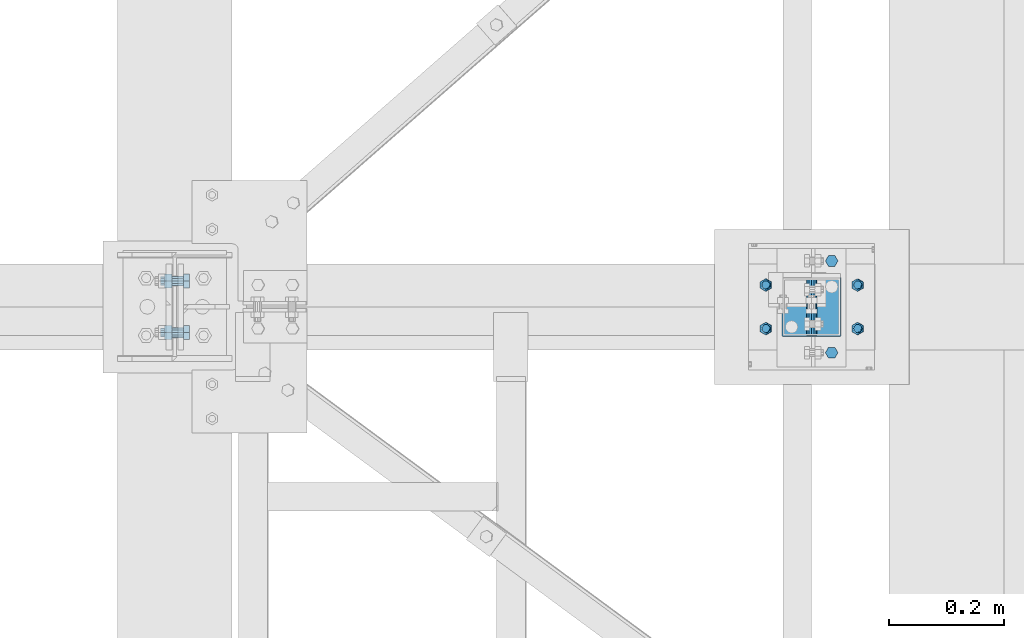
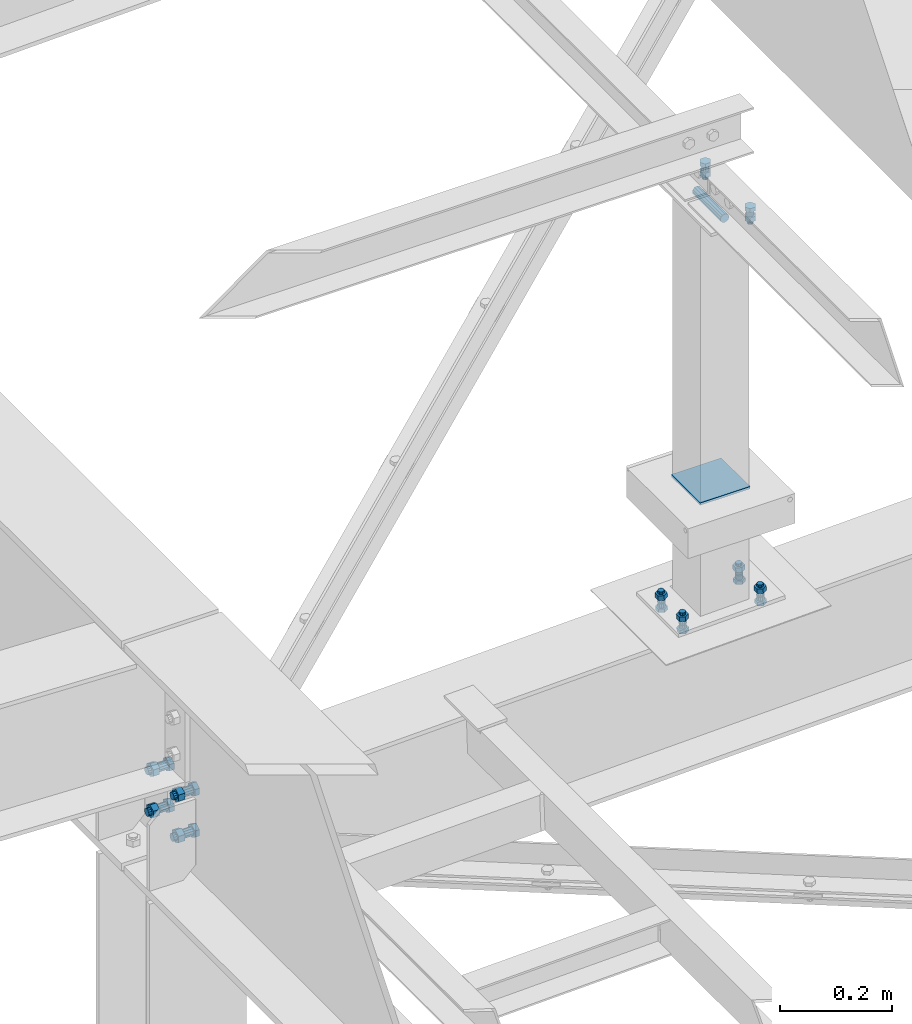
# One storey, part 58 of 3134: 7 mechanical fasteners, 6 elements without a shape of their own.
"""IFC2X3 building model written with IfcOpenShell, lengths in millimetres."""

from ifc_helpers import new_model, si_unit, frame, origin_with_axes, place, context, subcontext, project, spatial, faceted_brep, source, transform, mapped, material, type_object, element, aggregate, save


model = new_model("IFC2X3")

# Units and contexts
model_context = context("Model", 3, precision=1e-05, world=origin_with_axes())
body_context = subcontext(model_context, "Body", "Model", "MODEL_VIEW")
ifc_project = project(units=[si_unit("LENGTHUNIT", "METRE", prefix="MILLI"), si_unit("AREAUNIT", "SQUARE_METRE"), si_unit("VOLUMEUNIT", "CUBIC_METRE"), si_unit("MASSUNIT", "GRAM", prefix="KILO"), si_unit("TIMEUNIT", "SECOND"), si_unit("PLANEANGLEUNIT", "RADIAN"), si_unit("SOLIDANGLEUNIT", "STERADIAN"), si_unit("THERMODYNAMICTEMPERATUREUNIT", "DEGREE_CELSIUS"), si_unit("LUMINOUSINTENSITYUNIT", "LUMEN")], contexts=[model_context])

# Site, building, storey
site_placement = place(None, origin_with_axes())
site = spatial("IfcSite", under=ifc_project, at=site_placement, CompositionType="ELEMENT")
building_placement = place(site_placement, origin_with_axes())
building = spatial("IfcBuilding", under=site, at=building_placement, Name="Undefined", CompositionType="ELEMENT")
storey_placement = place(building_placement, origin_with_axes())
storey = spatial("IfcBuildingStorey", under=building, at=storey_placement, Name="Undefined", CompositionType="ELEMENT", Elevation=0.0)

# Assembly, mechanical fastener
assembly_1_placement = place(storey_placement, origin_with_axes())
assembly_1 = element("IfcElementAssembly", 1, at=assembly_1_placement, inside=storey, AssemblyPlace="NOTDEFINED", PredefinedType="RIGID_FRAME")
ifc_material_1 = material(Name="8.8")
mechanical_fastener_type = type_object("IfcMechanicalFastenerType", Name="Bolt assembly")
shared_shape_1 = source(origin_with_axes(), body_context, "Body", "Brep", [
    faceted_brep([(10.9696551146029, -14.0, 0.0), (5.48482755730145, -14.0, 9.5), (-5.48482755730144, -14.0, 9.5), (-10.9696551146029, -14.0, 1.34339530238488e-15), (-5.48482755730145, -14.0, -9.5), (5.48482755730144, -14.0, -9.50000000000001), (5.48482755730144, -6.0, -9.50000000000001), (-5.48482755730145, -6.0, -9.5), (-10.9696551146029, -6.0, 1.34339530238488e-15), (-5.48482755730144, -6.0, 9.5), (5.48482755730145, -6.0, 9.5), (10.9696551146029, -6.0, 0.0), (6.0, -6.0, 0.0), (5.19615242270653, -6.0, 3.00000000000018), (2.99999999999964, -6.0, 5.19615242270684), (-6.21801588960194e-13, -6.0, 6.0), (-3.00000000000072, -6.0, 5.19615242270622), (-5.19615242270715, -6.0, 2.9999999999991), (-6.0, -6.0, -1.24360317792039e-12), (-5.19615242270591, -6.0, -3.00000000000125), (-2.99999999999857, -6.0, -5.19615242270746), (1.85874342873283e-12, -6.0, -6.0), (3.00000000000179, -6.0, -5.1961524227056), (5.19615242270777, -6.0, -2.99999999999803), (5.19615242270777, 24.0, -2.99999999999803), (3.00000000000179, 24.0, -5.1961524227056), (1.85874342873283e-12, 24.0, -6.0), (-2.99999999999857, 24.0, -5.19615242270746), (-5.19615242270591, 24.0, -3.00000000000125), (-6.0, 24.0, -1.24360317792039e-12), (-5.19615242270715, 24.0, 2.9999999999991), (-3.00000000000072, 24.0, 5.19615242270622), (-6.21801588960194e-13, 24.0, 6.0), (2.99999999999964, 24.0, 5.19615242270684), (5.19615242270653, 24.0, 3.00000000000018), (6.0, 24.0, 0.0), (10.9696551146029, 6.00000000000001, 0.0), (5.48482755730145, 6.00000000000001, 9.5), (-5.48482755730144, 6.00000000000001, 9.5), (-10.9696551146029, 6.00000000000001, 1.34339530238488e-15), (-5.48482755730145, 6.00000000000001, -9.5), (5.48482755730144, 6.00000000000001, -9.50000000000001), (5.48482755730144, 16.0, -9.50000000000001), (-5.48482755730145, 16.0, -9.5), (-10.9696551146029, 16.0, 1.34339530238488e-15), (-5.48482755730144, 16.0, 9.5), (5.48482755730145, 16.0, 9.5), (10.9696551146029, 16.0, 0.0)], [[[0, 1, 2, 3, 4, 5]], [[6, 7, 8, 9, 10, 11]], [[0, 11, 10, 1]], [[1, 10, 9, 2]], [[2, 9, 8, 3]], [[3, 8, 7, 4]], [[4, 7, 6, 5]], [[5, 6, 11, 0]], [[12, 13, 14, 15, 16, 17, 18, 19, 20, 21, 22, 23]], [[24, 25, 26, 27, 28, 29, 30, 31, 32, 33, 34, 35]], [[12, 35, 34, 13]], [[13, 34, 33, 14]], [[14, 33, 32, 15]], [[15, 32, 31, 16]], [[16, 31, 30, 17]], [[17, 30, 29, 18]], [[18, 29, 28, 19]], [[19, 28, 27, 20]], [[20, 27, 26, 21]], [[21, 26, 25, 22]], [[22, 25, 24, 23]], [[23, 24, 35, 12]], [[36, 37, 38, 39, 40, 41]], [[42, 43, 44, 45, 46, 47]], [[36, 47, 46, 37]], [[37, 46, 45, 38]], [[38, 45, 44, 39]], [[39, 44, 43, 40]], [[40, 43, 42, 41]], [[41, 42, 47, 36]]]),
    faceted_brep([(7.0, -0.1, 0.0), (6.06217782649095, -0.1, 3.50000000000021), (3.49999999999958, -0.1, 6.06217782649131), (-7.25435187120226e-13, -0.1, 7.0), (-3.50000000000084, -0.1, 6.06217782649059), (-6.06217782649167, -0.1, 3.49999999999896), (-7.0, -0.1, -1.45087037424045e-12), (-6.06217782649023, -0.1, -3.50000000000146), (-3.49999999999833, -0.1, -6.06217782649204), (2.1685340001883e-12, -0.1, -7.0), (3.50000000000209, -0.1, -6.06217782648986), (6.0621778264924, -0.1, -3.4999999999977), (6.0621778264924, 6.00000000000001, -3.4999999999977), (3.50000000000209, 6.00000000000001, -6.06217782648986), (2.1685340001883e-12, 6.00000000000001, -7.0), (-3.49999999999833, 6.00000000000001, -6.06217782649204), (-6.06217782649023, 6.00000000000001, -3.50000000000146), (-7.0, 6.00000000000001, -1.45087037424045e-12), (-6.06217782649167, 6.00000000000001, 3.49999999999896), (-3.50000000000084, 6.00000000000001, 6.06217782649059), (-7.25435187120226e-13, 6.00000000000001, 7.0), (3.49999999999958, 6.00000000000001, 6.06217782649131), (6.06217782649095, 6.00000000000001, 3.50000000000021), (7.0, 6.00000000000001, 0.0), (7.0, -5.9, 0.0), (6.06217782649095, -5.9, 3.50000000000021), (3.49999999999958, -5.9, 6.06217782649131), (-7.25435187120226e-13, -5.9, 7.0), (-3.50000000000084, -5.9, 6.06217782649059), (-6.06217782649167, -5.9, 3.49999999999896), (-7.0, -5.9, -1.45087037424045e-12), (-6.06217782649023, -5.9, -3.50000000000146), (-3.49999999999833, -5.9, -6.06217782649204), (2.1685340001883e-12, -5.9, -7.0), (3.50000000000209, -5.9, -6.06217782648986), (6.0621778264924, -5.9, -3.4999999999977), (6.0621778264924, 0.0999999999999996, -3.4999999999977), (3.50000000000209, 0.0999999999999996, -6.06217782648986), (2.1685340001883e-12, 0.0999999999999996, -7.0), (-3.49999999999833, 0.0999999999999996, -6.06217782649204), (-6.06217782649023, 0.0999999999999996, -3.50000000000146), (-7.0, 0.0999999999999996, -1.45087037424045e-12), (-6.06217782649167, 0.0999999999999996, 3.49999999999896), (-3.50000000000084, 0.0999999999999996, 6.06217782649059), (-7.25435187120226e-13, 0.0999999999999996, 7.0), (3.49999999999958, 0.0999999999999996, 6.06217782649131), (6.06217782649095, 0.0999999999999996, 3.50000000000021), (7.0, 0.0999999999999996, 0.0)], [[[0, 1, 2, 3, 4, 5, 6, 7, 8, 9, 10, 11]], [[12, 13, 14, 15, 16, 17, 18, 19, 20, 21, 22, 23]], [[0, 23, 22, 1]], [[1, 22, 21, 2]], [[2, 21, 20, 3]], [[3, 20, 19, 4]], [[4, 19, 18, 5]], [[5, 18, 17, 6]], [[6, 17, 16, 7]], [[7, 16, 15, 8]], [[8, 15, 14, 9]], [[9, 14, 13, 10]], [[10, 13, 12, 11]], [[11, 12, 23, 0]], [[24, 25, 26, 27, 28, 29, 30, 31, 32, 33, 34, 35]], [[36, 37, 38, 39, 40, 41, 42, 43, 44, 45, 46, 47]], [[24, 47, 46, 25]], [[25, 46, 45, 26]], [[26, 45, 44, 27]], [[27, 44, 43, 28]], [[28, 43, 42, 29]], [[29, 42, 41, 30]], [[30, 41, 40, 31]], [[31, 40, 39, 32]], [[32, 39, 38, 33]], [[33, 38, 37, 34]], [[34, 37, 36, 35]], [[35, 36, 47, 24]]]),
])
mechanical_fastener_1_placement = place(assembly_1_placement, frame((10440.0, 19450.0, 4265.0), z_axis=(0.0, -1.0, 0.0), x_axis=(-1.0, 0.0, 0.0)))
mechanical_fastener_1 = element("IfcMechanicalFastener", 2, at=mechanical_fastener_1_placement, type_object=mechanical_fastener_type, material=ifc_material_1, Name="Bolt assembly", NominalDiameter=12.0, NominalLength=30.0, context=body_context, shape_type="MappedRepresentation", body=[
    mapped(shared_shape_1, transform((0.0, -5.32963895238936e-10, -79.9999999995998))),
    mapped(shared_shape_1, transform((0.0, 5.3114490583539e-10, 79.9999999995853))),
])
aggregate(assembly_1, [mechanical_fastener_1])

assembly_2_placement = place(storey_placement, origin_with_axes())
assembly_2 = element("IfcElementAssembly", 3, at=assembly_2_placement, inside=storey, Name="IPE500", AssemblyPlace="NOTDEFINED", PredefinedType="RIGID_FRAME")
shared_shape_2 = source(origin_with_axes(), body_context, "Body", "Brep", [
    faceted_brep([(13.856406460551, -10.0, 0.0), (6.92820323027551, -10.0, 12.0), (-6.92820323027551, -10.0, 12.0), (-13.856406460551, -10.0, 1.69692038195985e-15), (-6.92820323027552, -10.0, -12.0), (6.9282032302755, -10.0, -12.0), (6.9282032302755, 0.0, -12.0), (-6.92820323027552, 0.0, -12.0), (-13.856406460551, 0.0, 1.69692038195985e-15), (-6.92820323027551, 0.0, 12.0), (6.92820323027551, 0.0, 12.0), (13.856406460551, 0.0, 0.0), (8.0, 0.0, 0.0), (6.92820323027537, 0.0, 4.00000000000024), (3.99999999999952, 0.0, 6.92820323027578), (-8.29068785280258e-13, 0.0, 8.0), (-4.00000000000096, 0.0, 6.92820323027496), (-6.9282032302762, 0.0, 3.99999999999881), (-8.0, 0.0, -1.65813757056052e-12), (-6.92820323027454, 0.0, -4.00000000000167), (-3.99999999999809, 0.0, -6.92820323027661), (2.47832457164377e-12, 0.0, -8.0), (4.00000000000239, 0.0, -6.92820323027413), (6.92820323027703, 0.0, -3.99999999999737), (6.92820323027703, 40.0, -3.99999999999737), (4.00000000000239, 40.0, -6.92820323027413), (2.47832457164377e-12, 40.0, -8.0), (-3.99999999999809, 40.0, -6.92820323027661), (-6.92820323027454, 40.0, -4.00000000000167), (-8.0, 40.0, -1.65813757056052e-12), (-6.9282032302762, 40.0, 3.99999999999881), (-4.00000000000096, 40.0, 6.92820323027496), (-8.29068785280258e-13, 40.0, 8.0), (3.99999999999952, 40.0, 6.92820323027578), (6.92820323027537, 40.0, 4.00000000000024), (8.0, 40.0, 0.0), (13.856406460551, 20.1999997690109, 0.0), (6.92820323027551, 20.1999997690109, 12.0), (-6.92820323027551, 20.1999997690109, 12.0), (-13.856406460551, 20.1999997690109, 1.69692038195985e-15), (-6.92820323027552, 20.1999997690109, -12.0), (6.9282032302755, 20.1999997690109, -12.0), (6.9282032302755, 33.1999997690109, -12.0), (-6.92820323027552, 33.1999997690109, -12.0), (-13.856406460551, 33.1999997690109, 1.69692038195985e-15), (-6.92820323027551, 33.1999997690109, 12.0), (6.92820323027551, 33.1999997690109, 12.0), (13.856406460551, 33.1999997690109, 0.0)], [[[0, 1, 2, 3, 4, 5]], [[6, 7, 8, 9, 10, 11]], [[0, 11, 10, 1]], [[1, 10, 9, 2]], [[2, 9, 8, 3]], [[3, 8, 7, 4]], [[4, 7, 6, 5]], [[5, 6, 11, 0]], [[12, 13, 14, 15, 16, 17, 18, 19, 20, 21, 22, 23]], [[24, 25, 26, 27, 28, 29, 30, 31, 32, 33, 34, 35]], [[12, 35, 34, 13]], [[13, 34, 33, 14]], [[14, 33, 32, 15]], [[15, 32, 31, 16]], [[16, 31, 30, 17]], [[17, 30, 29, 18]], [[18, 29, 28, 19]], [[19, 28, 27, 20]], [[20, 27, 26, 21]], [[21, 26, 25, 22]], [[22, 25, 24, 23]], [[23, 24, 35, 12]], [[36, 37, 38, 39, 40, 41]], [[42, 43, 44, 45, 46, 47]], [[36, 47, 46, 37]], [[37, 46, 45, 38]], [[38, 45, 44, 39]], [[39, 44, 43, 40]], [[40, 43, 42, 41]], [[41, 42, 47, 36]]]),
    faceted_brep([(9.0, 0.100000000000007, 0.0), (7.79422863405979, 0.100000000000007, 4.50000000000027), (4.49999999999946, 0.100000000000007, 7.79422863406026), (-9.3270238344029e-13, 0.100000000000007, 9.0), (-4.50000000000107, 0.100000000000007, 7.79422863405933), (-7.79422863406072, 0.100000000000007, 4.49999999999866), (-9.0, 0.100000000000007, -1.86540476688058e-12), (-7.79422863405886, 0.100000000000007, -4.50000000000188), (-4.49999999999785, 0.100000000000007, -7.79422863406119), (2.78811514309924e-12, 0.100000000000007, -9.0), (4.50000000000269, 0.100000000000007, -7.7942286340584), (7.79422863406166, 0.100000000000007, -4.49999999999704), (7.79422863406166, 10.1000023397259, -4.49999999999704), (4.50000000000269, 10.1000023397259, -7.7942286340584), (2.78811514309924e-12, 10.1000023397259, -9.0), (-4.49999999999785, 10.1000023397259, -7.79422863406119), (-7.79422863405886, 10.1000023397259, -4.50000000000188), (-9.0, 10.1000023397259, -1.86540476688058e-12), (-7.79422863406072, 10.1000023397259, 4.49999999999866), (-4.50000000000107, 10.1000023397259, 7.79422863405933), (-9.3270238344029e-13, 10.1000023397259, 9.0), (4.49999999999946, 10.1000023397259, 7.79422863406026), (7.79422863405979, 10.1000023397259, 4.50000000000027), (9.0, 10.1000023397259, 0.0), (9.0, 9.89999999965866, 0.0), (7.79422863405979, 9.89999999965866, 4.50000000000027), (4.49999999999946, 9.89999999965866, 7.79422863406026), (-9.3270238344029e-13, 9.89999999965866, 9.0), (-4.50000000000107, 9.89999999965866, 7.79422863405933), (-7.79422863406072, 9.89999999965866, 4.49999999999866), (-9.0, 9.89999999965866, -1.86540476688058e-12), (-7.79422863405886, 9.89999999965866, -4.50000000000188), (-4.49999999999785, 9.89999999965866, -7.79422863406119), (2.78811514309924e-12, 9.89999999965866, -9.0), (4.50000000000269, 9.89999999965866, -7.7942286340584), (7.79422863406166, 9.89999999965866, -4.49999999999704), (7.79422863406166, 20.1999997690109, -4.49999999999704), (4.50000000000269, 20.1999997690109, -7.7942286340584), (2.78811514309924e-12, 20.1999997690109, -9.0), (-4.49999999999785, 20.1999997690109, -7.79422863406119), (-7.79422863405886, 20.1999997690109, -4.50000000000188), (-9.0, 20.1999997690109, -1.86540476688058e-12), (-7.79422863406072, 20.1999997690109, 4.49999999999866), (-4.50000000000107, 20.1999997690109, 7.79422863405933), (-9.3270238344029e-13, 20.1999997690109, 9.0), (4.49999999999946, 20.1999997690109, 7.79422863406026), (7.79422863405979, 20.1999997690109, 4.50000000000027), (9.0, 20.1999997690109, 0.0)], [[[0, 1, 2, 3, 4, 5, 6, 7, 8, 9, 10, 11]], [[12, 13, 14, 15, 16, 17, 18, 19, 20, 21, 22, 23]], [[0, 23, 22, 1]], [[1, 22, 21, 2]], [[2, 21, 20, 3]], [[3, 20, 19, 4]], [[4, 19, 18, 5]], [[5, 18, 17, 6]], [[6, 17, 16, 7]], [[7, 16, 15, 8]], [[8, 15, 14, 9]], [[9, 14, 13, 10]], [[10, 13, 12, 11]], [[11, 12, 23, 0]], [[24, 25, 26, 27, 28, 29, 30, 31, 32, 33, 34, 35]], [[36, 37, 38, 39, 40, 41, 42, 43, 44, 45, 46, 47]], [[24, 47, 46, 25]], [[25, 46, 45, 26]], [[26, 45, 44, 27]], [[27, 44, 43, 28]], [[28, 43, 42, 29]], [[29, 42, 41, 30]], [[30, 41, 40, 31]], [[31, 40, 39, 32]], [[32, 39, 38, 33]], [[33, 38, 37, 34]], [[34, 37, 36, 35]], [[35, 36, 47, 24]]]),
])
mechanical_fastener_2_placement = place(assembly_2_placement, frame((9310.09999986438, 19405.0, 3381.67000001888), z_axis=(0.0, 1.0, 0.0), x_axis=(0.0, 0.0, -1.0)))
mechanical_fastener_2 = element("IfcMechanicalFastener", 4, at=mechanical_fastener_2_placement, type_object=mechanical_fastener_type, material=ifc_material_1, Name="Bolt assembly", NominalDiameter=16.0, NominalLength=40.0, context=body_context, shape_type="MappedRepresentation", body=[
    mapped(shared_shape_2, transform((0.0, 0.0, 0.0))),
    mapped(shared_shape_2, transform((90.0, 0.0, 0.0))),
])
aggregate(assembly_2, [mechanical_fastener_2])

assembly_3_placement = place(storey_placement, origin_with_axes())
assembly_3 = element("IfcElementAssembly", 5, at=assembly_3_placement, inside=storey, Name="IPE500", AssemblyPlace="NOTDEFINED", PredefinedType="RIGID_FRAME")
mechanical_fastener_3_placement = place(assembly_3_placement, frame((9310.09999986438, 19495.0, 3381.67000001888), z_axis=(0.0, 1.0, 0.0), x_axis=(0.0, 0.0, -1.0)))
mechanical_fastener_3 = element("IfcMechanicalFastener", 6, at=mechanical_fastener_3_placement, type_object=mechanical_fastener_type, material=ifc_material_1, Name="Bolt assembly", NominalDiameter=16.0, NominalLength=40.0, context=body_context, shape_type="MappedRepresentation", body=[
    mapped(shared_shape_2, transform((0.0, 0.0, 0.0))),
    mapped(shared_shape_2, transform((90.0, 0.0, 0.0))),
])
aggregate(assembly_3, [mechanical_fastener_3])

assembly_4_placement = place(storey_placement, origin_with_axes())
assembly_4 = element("IfcElementAssembly", 7, at=assembly_4_placement, inside=storey, Name="300", AssemblyPlace="NOTDEFINED", PredefinedType="RIGID_FRAME")
shared_shape_3 = source(origin_with_axes(), body_context, "Body", "Brep", [
    faceted_brep([(10.9696551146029, -4.1984682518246, 0.0), (5.48482755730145, -4.1984682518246, 9.5), (-5.48482755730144, -4.1984682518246, 9.5), (-10.9696551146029, -4.1984682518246, 1.34339530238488e-15), (-5.48482755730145, -4.1984682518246, -9.5), (5.48482755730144, -4.1984682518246, -9.50000000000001), (5.48482755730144, 3.8015317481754, -9.50000000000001), (-5.48482755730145, 3.8015317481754, -9.5), (-10.9696551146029, 3.8015317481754, 1.34339530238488e-15), (-5.48482755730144, 3.8015317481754, 9.5), (5.48482755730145, 3.8015317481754, 9.5), (10.9696551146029, 3.8015317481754, 0.0), (6.0, 3.8015317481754, 0.0), (5.19615242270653, 3.8015317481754, 3.00000000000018), (2.99999999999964, 3.8015317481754, 5.19615242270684), (-6.21801588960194e-13, 3.8015317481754, 6.0), (-3.00000000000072, 3.8015317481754, 5.19615242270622), (-5.19615242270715, 3.8015317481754, 2.9999999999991), (-6.0, 3.8015317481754, -1.24360317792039e-12), (-5.19615242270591, 3.8015317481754, -3.00000000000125), (-2.99999999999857, 3.8015317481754, -5.19615242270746), (1.85874342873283e-12, 3.8015317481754, -6.0), (3.00000000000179, 3.8015317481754, -5.1961524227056), (5.19615242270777, 3.8015317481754, -2.99999999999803), (5.19615242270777, 38.8015317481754, -2.99999999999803), (3.00000000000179, 38.8015317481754, -5.1961524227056), (1.85874342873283e-12, 38.8015317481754, -6.0), (-2.99999999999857, 38.8015317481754, -5.19615242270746), (-5.19615242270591, 38.8015317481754, -3.00000000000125), (-6.0, 38.8015317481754, -1.24360317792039e-12), (-5.19615242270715, 38.8015317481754, 2.9999999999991), (-3.00000000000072, 38.8015317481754, 5.19615242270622), (-6.21801588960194e-13, 38.8015317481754, 6.0), (2.99999999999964, 38.8015317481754, 5.19615242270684), (5.19615242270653, 38.8015317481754, 3.00000000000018), (6.0, 38.8015317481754, 0.0), (10.9696551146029, 23.0039050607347, 0.0), (5.48482755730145, 23.0039050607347, 9.5), (-5.48482755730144, 23.0039050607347, 9.5), (-10.9696551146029, 23.0039050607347, 1.34339530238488e-15), (-5.48482755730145, 23.0039050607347, -9.5), (5.48482755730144, 23.0039050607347, -9.50000000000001), (5.48482755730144, 33.0039050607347, -9.50000000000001), (-5.48482755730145, 33.0039050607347, -9.5), (-10.9696551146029, 33.0039050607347, 1.34339530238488e-15), (-5.48482755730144, 33.0039050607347, 9.5), (5.48482755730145, 33.0039050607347, 9.5), (10.9696551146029, 33.0039050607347, 0.0)], [[[0, 1, 2, 3, 4, 5]], [[6, 7, 8, 9, 10, 11]], [[0, 11, 10, 1]], [[1, 10, 9, 2]], [[2, 9, 8, 3]], [[3, 8, 7, 4]], [[4, 7, 6, 5]], [[5, 6, 11, 0]], [[12, 13, 14, 15, 16, 17, 18, 19, 20, 21, 22, 23]], [[24, 25, 26, 27, 28, 29, 30, 31, 32, 33, 34, 35]], [[12, 35, 34, 13]], [[13, 34, 33, 14]], [[14, 33, 32, 15]], [[15, 32, 31, 16]], [[16, 31, 30, 17]], [[17, 30, 29, 18]], [[18, 29, 28, 19]], [[19, 28, 27, 20]], [[20, 27, 26, 21]], [[21, 26, 25, 22]], [[22, 25, 24, 23]], [[23, 24, 35, 12]], [[36, 37, 38, 39, 40, 41]], [[42, 43, 44, 45, 46, 47]], [[36, 47, 46, 37]], [[37, 46, 45, 38]], [[38, 45, 44, 39]], [[39, 44, 43, 40]], [[40, 43, 42, 41]], [[41, 42, 47, 36]]]),
    faceted_brep([(7.0, 14.9039050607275, 0.0), (6.06217782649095, 14.9039050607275, 3.50000000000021), (3.49999999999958, 14.9039050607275, 6.06217782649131), (-7.25435187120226e-13, 14.9039050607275, 7.0), (-3.50000000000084, 14.9039050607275, 6.06217782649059), (-6.06217782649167, 14.9039050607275, 3.49999999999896), (-7.0, 14.9039050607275, -1.45087037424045e-12), (-6.06217782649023, 14.9039050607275, -3.50000000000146), (-3.49999999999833, 14.9039050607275, -6.06217782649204), (2.1685340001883e-12, 14.9039050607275, -7.0), (3.50000000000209, 14.9039050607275, -6.06217782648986), (6.0621778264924, 14.9039050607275, -3.4999999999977), (6.0621778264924, 23.0039050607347, -3.4999999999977), (3.50000000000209, 23.0039050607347, -6.06217782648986), (2.1685340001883e-12, 23.0039050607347, -7.0), (-3.49999999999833, 23.0039050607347, -6.06217782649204), (-6.06217782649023, 23.0039050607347, -3.50000000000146), (-7.0, 23.0039050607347, -1.45087037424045e-12), (-6.06217782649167, 23.0039050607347, 3.49999999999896), (-3.50000000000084, 23.0039050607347, 6.06217782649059), (-7.25435187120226e-13, 23.0039050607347, 7.0), (3.49999999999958, 23.0039050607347, 6.06217782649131), (6.06217782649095, 23.0039050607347, 3.50000000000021), (7.0, 23.0039050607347, 0.0), (7.0, 3.9015317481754, 0.0), (6.06217782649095, 3.9015317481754, 3.50000000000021), (3.49999999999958, 3.9015317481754, 6.06217782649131), (-7.25435187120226e-13, 3.9015317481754, 7.0), (-3.50000000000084, 3.9015317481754, 6.06217782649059), (-6.06217782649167, 3.9015317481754, 3.49999999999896), (-7.0, 3.9015317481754, -1.45087037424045e-12), (-6.06217782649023, 3.9015317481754, -3.50000000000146), (-3.49999999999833, 3.9015317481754, -6.06217782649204), (2.1685340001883e-12, 3.9015317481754, -7.0), (3.50000000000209, 3.9015317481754, -6.06217782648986), (6.0621778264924, 3.9015317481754, -3.4999999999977), (6.0621778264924, 13.1015315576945, -3.4999999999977), (3.50000000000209, 13.1015315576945, -6.06217782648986), (2.1685340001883e-12, 13.1015315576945, -7.0), (-3.49999999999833, 13.1015315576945, -6.06217782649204), (-6.06217782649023, 13.1015315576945, -3.50000000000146), (-7.0, 13.1015315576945, -1.45087037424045e-12), (-6.06217782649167, 13.1015315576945, 3.49999999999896), (-3.50000000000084, 13.1015315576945, 6.06217782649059), (-7.25435187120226e-13, 13.1015315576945, 7.0), (3.49999999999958, 13.1015315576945, 6.06217782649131), (6.06217782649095, 13.1015315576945, 3.50000000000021), (7.0, 13.1015315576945, 0.0)], [[[0, 1, 2, 3, 4, 5, 6, 7, 8, 9, 10, 11]], [[12, 13, 14, 15, 16, 17, 18, 19, 20, 21, 22, 23]], [[0, 23, 22, 1]], [[1, 22, 21, 2]], [[2, 21, 20, 3]], [[3, 20, 19, 4]], [[4, 19, 18, 5]], [[5, 18, 17, 6]], [[6, 17, 16, 7]], [[7, 16, 15, 8]], [[8, 15, 14, 9]], [[9, 14, 13, 10]], [[10, 13, 12, 11]], [[11, 12, 23, 0]], [[24, 25, 26, 27, 28, 29, 30, 31, 32, 33, 34, 35]], [[36, 37, 38, 39, 40, 41, 42, 43, 44, 45, 46, 47]], [[24, 47, 46, 25]], [[25, 46, 45, 26]], [[26, 45, 44, 27]], [[27, 44, 43, 28]], [[28, 43, 42, 29]], [[29, 42, 41, 30]], [[30, 41, 40, 31]], [[31, 40, 39, 32]], [[32, 39, 38, 33]], [[33, 38, 37, 34]], [[34, 37, 36, 35]], [[35, 36, 47, 24]]]),
])
mechanical_fastener_4_placement = place(assembly_4_placement, frame((10405.7748812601, 19412.0, 3374.2272055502), z_axis=(0.999519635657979, 0.0, 0.0309919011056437), x_axis=(0.0, 1.0, 0.0)))
mechanical_fastener_4 = element("IfcMechanicalFastener", 8, at=mechanical_fastener_4_placement, type_object=mechanical_fastener_type, material=ifc_material_1, Name="Bolt assembly", NominalDiameter=12.0, NominalLength=35.0, context=body_context, shape_type="MappedRepresentation", body=[
    mapped(shared_shape_3, transform((0.0, -5.32963895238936e-10, -79.9999999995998))),
    mapped(shared_shape_3, transform((76.0, -5.32963895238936e-10, -79.9999999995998))),
    mapped(shared_shape_3, transform((0.0, 5.3114490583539e-10, 79.9999999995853))),
    mapped(shared_shape_3, transform((76.0, 5.3114490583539e-10, 79.9999999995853))),
])
aggregate(assembly_4, [mechanical_fastener_4])

assembly_5_placement = place(storey_placement, origin_with_axes())
assembly_5 = element("IfcElementAssembly", 9, at=assembly_5_placement, inside=storey, AssemblyPlace="NOTDEFINED", PredefinedType="RIGID_FRAME")
shared_shape_4 = source(origin_with_axes(), body_context, "Body", "Brep", [
    faceted_brep([(7.0, 13.0000253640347, 0.0), (6.06217782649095, 13.0000253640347, 3.50000000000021), (3.49999999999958, 13.0000253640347, 6.06217782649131), (-7.25435187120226e-13, 13.0000253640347, 7.0), (-3.50000000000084, 13.0000253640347, 6.06217782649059), (-6.06217782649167, 13.0000253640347, 3.49999999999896), (-7.0, 13.0000253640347, -1.45087037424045e-12), (-6.06217782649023, 13.0000253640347, -3.50000000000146), (-3.49999999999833, 13.0000253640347, -6.06217782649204), (2.1685340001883e-12, 13.0000253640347, -7.0), (3.50000000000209, 13.0000253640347, -6.06217782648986), (6.0621778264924, 13.0000253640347, -3.4999999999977), (6.0621778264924, 15.0999999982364, -3.4999999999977), (3.50000000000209, 15.0999999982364, -6.06217782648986), (2.1685340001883e-12, 15.0999999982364, -7.0), (-3.49999999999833, 15.0999999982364, -6.06217782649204), (-6.06217782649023, 15.0999999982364, -3.50000000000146), (-7.0, 15.0999999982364, -1.45087037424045e-12), (-6.06217782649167, 15.0999999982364, 3.49999999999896), (-3.50000000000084, 15.0999999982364, 6.06217782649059), (-7.25435187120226e-13, 15.0999999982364, 7.0), (3.49999999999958, 15.0999999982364, 6.06217782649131), (6.06217782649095, 15.0999999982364, 3.50000000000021), (7.0, 15.0999999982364, 0.0)], [[[0, 1, 2, 3, 4, 5, 6, 7, 8, 9, 10, 11]], [[12, 13, 14, 15, 16, 17, 18, 19, 20, 21, 22, 23]], [[0, 23, 22, 1]], [[1, 22, 21, 2]], [[2, 21, 20, 3]], [[3, 20, 19, 4]], [[4, 19, 18, 5]], [[5, 18, 17, 6]], [[6, 17, 16, 7]], [[7, 16, 15, 8]], [[8, 15, 14, 9]], [[9, 14, 13, 10]], [[10, 13, 12, 11]], [[11, 12, 23, 0]]]),
])
mechanical_fastener_5_placement = place(assembly_5_placement, frame((10405.7748812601, 19412.0, 3374.2272055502), z_axis=(0.999519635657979, 0.0, 0.0309919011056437), x_axis=(0.0, 1.0, 0.0)))
mechanical_fastener_5 = element("IfcMechanicalFastener", 10, at=mechanical_fastener_5_placement, type_object=mechanical_fastener_type, material=ifc_material_1, Name="Bolt assembly", NominalDiameter=12.0, NominalLength=2.0, context=body_context, shape_type="MappedRepresentation", body=[
    mapped(shared_shape_4, transform((0.0, -5.32963895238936e-10, -79.9999999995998))),
    mapped(shared_shape_4, transform((76.0, -5.32963895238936e-10, -79.9999999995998))),
    mapped(shared_shape_4, transform((0.0, 5.3114490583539e-10, 79.9999999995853))),
    mapped(shared_shape_4, transform((76.0, 5.3114490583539e-10, 79.9999999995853))),
])
aggregate(assembly_5, [mechanical_fastener_5])

# Assembly, mechanical fasteners
assembly_6_placement = place(storey_placement, origin_with_axes())
assembly_6 = element("IfcElementAssembly", 11, at=assembly_6_placement, inside=storey, AssemblyPlace="NOTDEFINED", PredefinedType="RIGID_FRAME")
shared_shape_5 = source(origin_with_axes(), body_context, "Body", "Brep", [
    faceted_brep([(9.0, -50.0, 0.0), (7.79422863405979, -50.0, 4.50000000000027), (4.49999999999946, -50.0, 7.79422863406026), (-9.3270238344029e-13, -50.0, 9.0), (-4.50000000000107, -50.0, 7.79422863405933), (-7.79422863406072, -50.0, 4.49999999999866), (-9.0, -50.0, -1.86540476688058e-12), (-7.79422863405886, -50.0, -4.50000000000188), (-4.49999999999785, -50.0, -7.79422863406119), (2.78811514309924e-12, -50.0, -9.0), (4.50000000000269, -50.0, -7.7942286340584), (7.79422863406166, -50.0, -4.49999999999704), (7.79422863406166, 50.1, -4.49999999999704), (4.50000000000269, 50.1, -7.7942286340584), (2.78811514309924e-12, 50.1, -9.0), (-4.49999999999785, 50.1, -7.79422863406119), (-7.79422863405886, 50.1, -4.50000000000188), (-9.0, 50.1, -1.86540476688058e-12), (-7.79422863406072, 50.1, 4.49999999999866), (-4.50000000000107, 50.1, 7.79422863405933), (-9.3270238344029e-13, 50.1, 9.0), (4.49999999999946, 50.1, 7.79422863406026), (7.79422863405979, 50.1, 4.50000000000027), (9.0, 50.1, 0.0)], [[[0, 1, 2, 3, 4, 5, 6, 7, 8, 9, 10, 11]], [[12, 13, 14, 15, 16, 17, 18, 19, 20, 21, 22, 23]], [[0, 23, 22, 1]], [[1, 22, 21, 2]], [[2, 21, 20, 3]], [[3, 20, 19, 4]], [[4, 19, 18, 5]], [[5, 18, 17, 6]], [[6, 17, 16, 7]], [[7, 16, 15, 8]], [[8, 15, 14, 9]], [[9, 14, 13, 10]], [[10, 13, 12, 11]], [[11, 12, 23, 0]]]),
])
mechanical_fastener_6_placement = place(assembly_6_placement, frame((10405.0, 19450.0, 4245.0), z_axis=(-1.0, 0.0, 0.0), x_axis=(0.0, 0.0, 1.0)))
mechanical_fastener_6 = element("IfcMechanicalFastener", 12, at=mechanical_fastener_6_placement, type_object=mechanical_fastener_type, material=ifc_material_1, Name="Bolt assembly", NominalDiameter=16.0, NominalLength=100.0, context=body_context, shape_type="MappedRepresentation", body=[
    mapped(shared_shape_5, transform((0.0, 0.0, 0.0))),
])
ifc_material_2 = material(Name="6.8")
shared_shape_6 = source(origin_with_axes(), body_context, "Body", "Brep", [
    faceted_brep([(51.5, 1.36424205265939e-12, 50.0), (51.3858192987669, 1.36424205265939e-12, 50.5740251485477), (51.0606601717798, 1.36424205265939e-12, 51.0606601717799), (50.5740251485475, 1.36424205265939e-12, 51.385819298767), (-50.0000000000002, 1.36424205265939e-12, 51.5), (-50.7500000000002, 1.36424205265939e-12, 51.2990381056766), (-51.2990381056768, 1.36424205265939e-12, 50.7499999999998), (-51.5, 1.36424205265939e-12, 49.9999999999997), (-51.5, 1.36424205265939e-12, -50.0000000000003), (-51.2990381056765, 1.36424205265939e-12, -50.7500000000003), (-50.7499999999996, 1.36424205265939e-12, -51.2990381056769), (-49.9999999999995, 1.36424205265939e-12, -51.5), (50.0000000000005, 1.36424205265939e-12, -51.5), (50.7500000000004, 1.36424205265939e-12, -51.2990381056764), (51.2990381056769, 1.36424205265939e-12, -50.7499999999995), (51.5, 1.36424205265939e-12, -49.9999999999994), (51.5, 5.10000000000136, -49.9999999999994), (51.2990381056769, 5.10000000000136, -50.7499999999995), (50.7500000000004, 5.10000000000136, -51.2990381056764), (50.0000000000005, 5.10000000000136, -51.5), (-49.9999999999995, 5.10000000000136, -51.5), (-50.7499999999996, 5.10000000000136, -51.2990381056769), (-51.2990381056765, 5.10000000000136, -50.7500000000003), (-51.5, 5.10000000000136, -50.0000000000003), (-51.5, 5.10000000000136, 49.9999999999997), (-51.2990381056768, 5.10000000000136, 50.7499999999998), (-50.7500000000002, 5.10000000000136, 51.2990381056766), (-50.0000000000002, 5.10000000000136, 51.5), (50.5740251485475, 5.10000000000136, 51.385819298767), (51.0606601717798, 5.10000000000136, 51.0606601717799), (51.3858192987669, 5.10000000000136, 50.5740251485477), (51.5, 5.10000000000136, 50.0)], [[[0, 1, 2, 3, 4, 5, 6, 7, 8, 9, 10, 11, 12, 13, 14, 15]], [[16, 17, 18, 19, 20, 21, 22, 23, 24, 25, 26, 27, 28, 29, 30, 31]], [[0, 31, 30, 1]], [[1, 30, 29, 2]], [[2, 29, 28, 3]], [[3, 28, 27, 4]], [[4, 27, 26, 5]], [[5, 26, 25, 6]], [[6, 25, 24, 7]], [[7, 24, 23, 8]], [[8, 23, 22, 9]], [[9, 22, 21, 10]], [[10, 21, 20, 11]], [[11, 20, 19, 12]], [[12, 19, 18, 13]], [[13, 18, 17, 14]], [[14, 17, 16, 15]], [[15, 16, 31, 0]]]),
])
mechanical_fastener_7_placement = place(assembly_6_placement, frame((10405.0, 19450.0, 3643.81), z_axis=(0.0, -1.0, 0.0), x_axis=(-1.0, 0.0, 0.0)))
mechanical_fastener_7 = element("IfcMechanicalFastener", 13, at=mechanical_fastener_7_placement, type_object=mechanical_fastener_type, material=ifc_material_2, Name="Bolt assembly", NominalDiameter=10.0, NominalLength=5.0, context=body_context, shape_type="MappedRepresentation", body=[
    mapped(shared_shape_6, transform((0.0, 0.0, 0.0))),
])
aggregate(assembly_6, [mechanical_fastener_6, mechanical_fastener_7])

save(model, "model.ifc")
